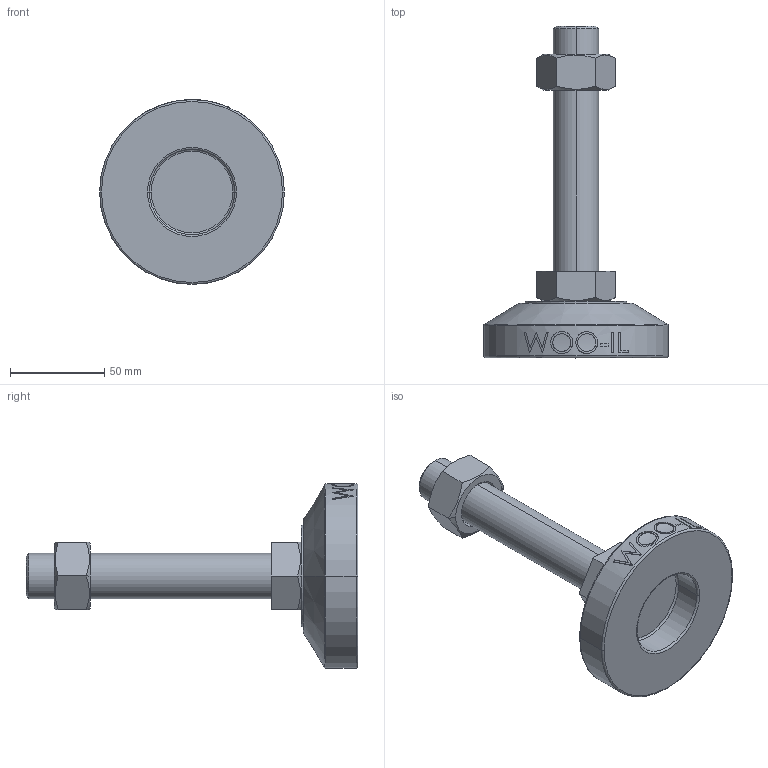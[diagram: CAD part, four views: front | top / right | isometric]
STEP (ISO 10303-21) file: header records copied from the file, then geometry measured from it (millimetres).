
FILE_DESCRIPTION (( 'STEP AP214' ), '1' );
FILE_NAME ('MF98-M24-130.step', '2021-02-03T08:23:23', ( '' ), ( '' ), 'SwSTEP 2.0', 'SolidWorks 2019', '' );
FILE_SCHEMA (( 'AUTOMOTIVE_DESIGN' ));
Length unit declared in the file: millimetre
Products named in the file (2): MF98-M24-130
Bounding box: 98 x 176 x 98 mm (x, y, z)
Volume: 255774.2 mm3; surface area: 42161.2 mm2
Topology: 3 solids, 3 shells, 106 faces, 243 edges, 154 vertices
Faces by surface type: plane 48, cylinder 18, bspline 16, cone 14, torus 10
Entity records: 4702 total; most frequent: CARTESIAN_POINT 2359, ORIENTED_EDGE 486, DIRECTION 439, EDGE_CURVE 243, AXIS2_PLACEMENT_3D 170, VERTEX_POINT 154, EDGE_LOOP 119, ADVANCED_FACE 106
